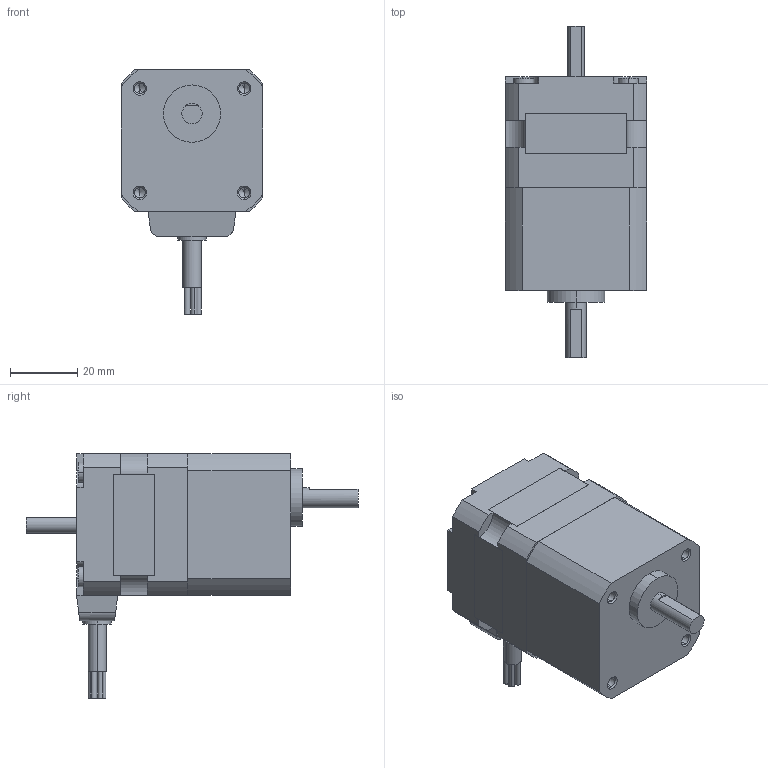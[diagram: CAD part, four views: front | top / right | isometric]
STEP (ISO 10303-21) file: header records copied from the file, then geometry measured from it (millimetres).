
FILE_DESCRIPTION(('starvars output'),'2;1');
FILE_NAME('CRK543BP-T10.stp','15:38:06 2015/05/11',( 'Thomas Industrial Network Germany GmbH'),( 'Thomas Industrial Network Germany GmbH'),'unknown preprocess','ACIS' ,'unknown authorization');
FILE_SCHEMA(('AUTOMOTIVE_DESIGN_CC2 {UNKNOWN IMPLEMENTATION LEVEL}'));
Length unit declared in the file: millimetre
Products named in the file (1): PRODUCT_ID_333
Bounding box: 42 x 98.5 x 72.5 mm (x, y, z)
Volume: 112340.1 mm3; surface area: 18631.3 mm2
Topology: 1 solids, 1 shells, 171 faces, 430 edges, 275 vertices
Faces by surface type: plane 79, cylinder 76, cone 16
Entity records: 5945 total; most frequent: ORIENTED_EDGE 844, CARTESIAN_POINT 745, DIRECTION 699, EDGE_CURVE 422, VERTEX_POINT 275, VECTOR 241, LINE 241, AXIS2_PLACEMENT_3D 229
